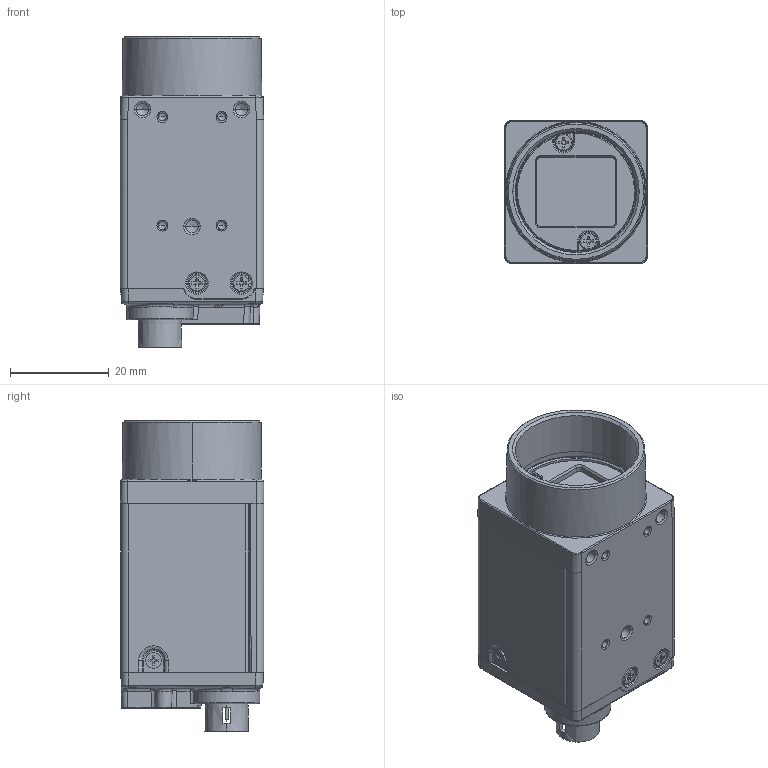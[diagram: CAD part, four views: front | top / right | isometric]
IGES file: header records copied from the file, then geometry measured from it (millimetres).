
Start section:  PTC IGES file: 18-9.igs
Global section: file name: 18-9.igs; native system: Creo Parametric by PTC Inc.; preprocessor: 2020184; author: 21511; organization: Unknown; date: 20240516.105211; units: millimetre
Bounding box: 29 x 29 x 62.8 mm (x, y, z)
Volume: 36737.9 mm3; surface area: 14657.5 mm2
Topology: 1 solids, 12 shells, 1758 faces, 4838 edges, 3077 vertices
Faces by surface type: bspline 1104, revolution 637, extrusion 17
